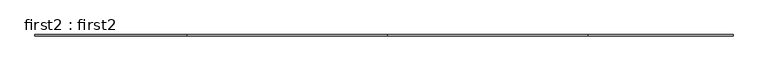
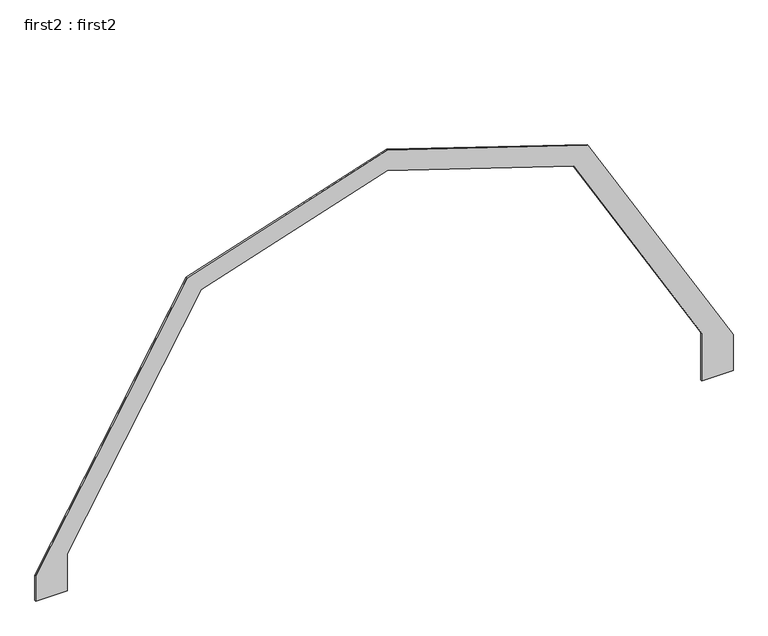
"""IFC4 building model written with IfcOpenShell, lengths in millimetres: proxy geometry, first2 : first2."""

from ifc_helpers import new_model, si_unit, frame, origin, place, context, project, spatial, polyline, outline, extrude, source, transform, mapped, element, save


def first2_first2_621e7f1b(model_context):
    return source(origin(), model_context, "Body", "SweptSolid", [
        extrude(outline(polyline([(15874.4631818, 6985.5802922), (17118.4450402, 3156.9978058), (15874.4631818, -671.5846805), (10859.1168825, -3567.1962165), (10350.0, -3567.1962165), (10350.0, -2967.1962165), (11098.347367, -2967.1962165), (15541.4887794, -401.947326), (16697.8601505, 3156.9978058), (15541.4515416, 6716.0575439), (11308.6981242, 9162.8037835), (10350.0, 9162.8037835), (10350.0, 9762.8037835), (11070.0, 9762.8037835), (15874.4631818, 6985.5802922)])), frame((0.0, 11592.3927558, 0.0), z_axis=(0.0, 1.0, 0.0), x_axis=(0.0, 0.0, 1.0)), (0.0, 0.0, 1.0), 25.0),
    ])


if __name__ == "__main__":
    model = new_model("IFC4")
    model_context = context("Model", 3, world=origin())
    ifc_project = project(units=[si_unit("LENGTHUNIT", "METRE", prefix="MILLI")], contexts=[model_context])
    site = spatial("IfcSite", under=ifc_project)
    building = spatial("IfcBuilding", under=site)
    placement = place(None, origin())
    first2_first2_shape = first2_first2_621e7f1b(model_context)
    element("IfcBuildingElementProxy", 1, Name="first2 : first2", ObjectType="first2 : first2", at=placement, inside=building, context=model_context, shape_type="MappedRepresentation", body=[
        mapped(first2_first2_shape, transform((0.0, 0.0, 0.0), x_axis=(1.0, 0.0, 0.0), y_axis=(0.0, 1.0, 0.0), z_axis=(0.0, 0.0, 1.0))),
    ])
    save(model, "model.ifc")
